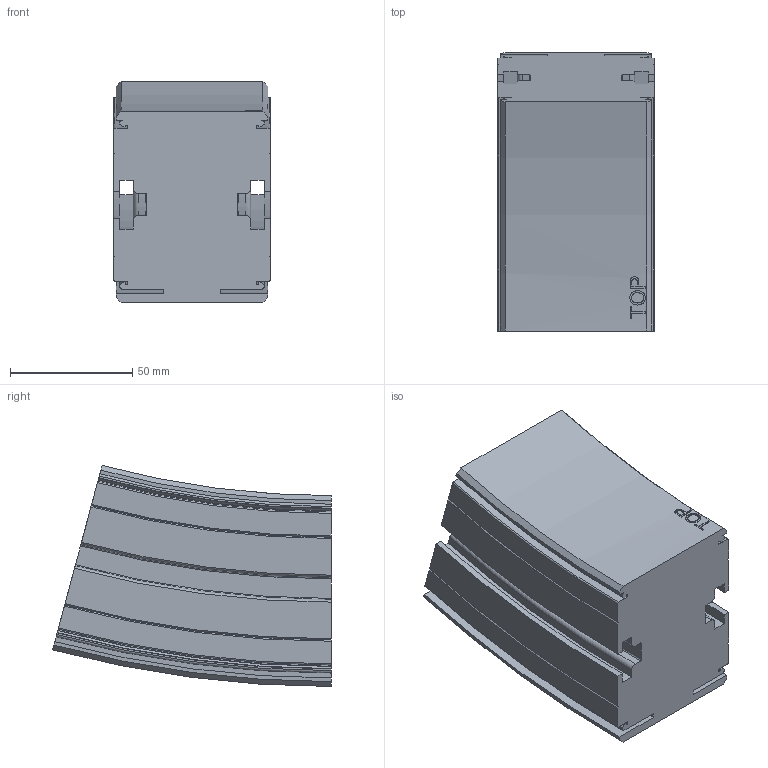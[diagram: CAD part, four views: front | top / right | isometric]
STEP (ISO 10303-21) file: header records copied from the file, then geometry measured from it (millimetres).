
FILE_DESCRIPTION(/* description */ ('VERTIKALKURVA S620 R400'),/* implementation_level */ '2;1');
FILE_NAME(/* name */ '\\carryline.intra\privat\users\mathias\Desktop\Tillfälliga filer\620-5645+620-2000-UPP-01.stp',/* time_stamp */ '2018-12-05T16:02:55+01:00',/* author */ ('MD'),/* organization */ ('CARRYLINE'),/* preprocessor_version */ 'ST-DEVELOPER v17',/* originating_system */ 'Autodesk Inventor 2018',/* authorisation */ '');
FILE_SCHEMA (('AUTOMOTIVE_DESIGN { 1 0 10303 214 3 1 1 }'));
Length unit declared in the file: millimetre
Products named in the file (1): 620-5645+620-2000-UPP-01
Bounding box: 64 x 113.88 x 90.33 mm (x, y, z)
Volume: 468039.9 mm3; surface area: 59982.4 mm2
Topology: 1 solids, 1 shells, 149 faces, 426 edges, 284 vertices
Faces by surface type: plane 54, cylinder 37, torus 28, cone 16, bspline 14
Entity records: 9533 total; most frequent: CARTESIAN_POINT 5513, ORIENTED_EDGE 852, DIRECTION 836, EDGE_CURVE 426, AXIS2_PLACEMENT_3D 315, VERTEX_POINT 284, LINE 206, VECTOR 206
